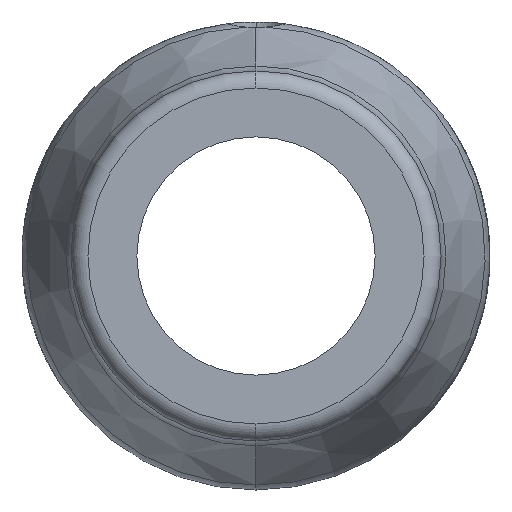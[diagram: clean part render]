
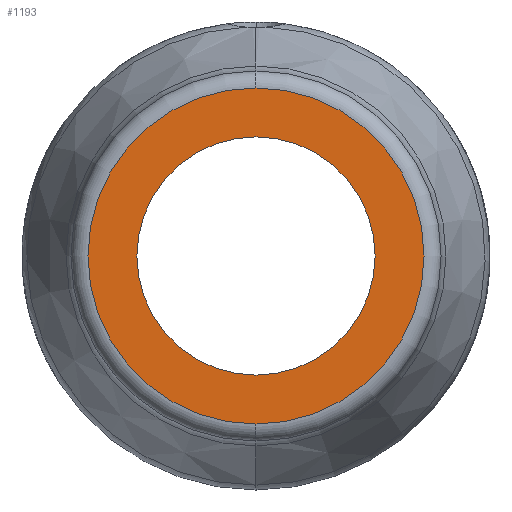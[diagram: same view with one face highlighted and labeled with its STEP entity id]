
A CAD part, left-side view. The second image highlights one B-rep face of the part: STEP entity #1193.
In plain terms, the highlighted planar face has unit normal (-1, 0, 0).
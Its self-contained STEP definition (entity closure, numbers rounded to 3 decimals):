
#91 = AXIS2_PLACEMENT_3D ( 'NONE', #1758, #1325, #1182 ) ;
#105 = FACE_BOUND ( 'NONE', #384, .T. ) ;
#123 = AXIS2_PLACEMENT_3D ( 'NONE', #534, #383, #1149 ) ;
#209 = PLANE ( 'NONE',  #123 ) ;
#214 = ORIENTED_EDGE ( 'NONE', *, *, #1672, .F. ) ;
#289 = DIRECTION ( 'NONE',  ( -1., 0., 0. ) ) ;
#331 = ORIENTED_EDGE ( 'NONE', *, *, #1188, .T. ) ;
#344 = AXIS2_PLACEMENT_3D ( 'NONE', #1278, #1286, #1415 ) ;
#347 = DIRECTION ( 'NONE',  ( 0., 0., -1. ) ) ;
#354 = ORIENTED_EDGE ( 'NONE', *, *, #902, .T. ) ;
#371 = DIRECTION ( 'NONE',  ( -1., 0., 0. ) ) ;
#376 = AXIS2_PLACEMENT_3D ( 'NONE', #1541, #289, #347 ) ;
#383 = DIRECTION ( 'NONE',  ( 1., 0., 0. ) ) ;
#384 = EDGE_LOOP ( 'NONE', ( #214, #1061 ) ) ;
#401 = VERTEX_POINT ( 'NONE', #982 ) ;
#498 = CIRCLE ( 'NONE', #376, 39.5 ) ;
#530 = CARTESIAN_POINT ( 'NONE',  ( 0., 0., 0. ) ) ;
#534 = CARTESIAN_POINT ( 'NONE',  ( 0., 28., 0. ) ) ;
#553 = DIRECTION ( 'NONE',  ( 0., 0., -1. ) ) ;
#609 = VERTEX_POINT ( 'NONE', #1491 ) ;
#625 = CIRCLE ( 'NONE', #91, 28. ) ;
#629 = VERTEX_POINT ( 'NONE', #974 ) ;
#902 = EDGE_CURVE ( 'NONE', #1002, #609, #498, .T. ) ;
#933 = CIRCLE ( 'NONE', #344, 28. ) ;
#973 = CIRCLE ( 'NONE', #1468, 39.5 ) ;
#974 = CARTESIAN_POINT ( 'NONE',  ( 0., 0., -28. ) ) ;
#982 = CARTESIAN_POINT ( 'NONE',  ( 0., 0., 28. ) ) ;
#1002 = VERTEX_POINT ( 'NONE', #1514 ) ;
#1061 = ORIENTED_EDGE ( 'NONE', *, *, #1518, .F. ) ;
#1149 = DIRECTION ( 'NONE',  ( 0., 0., -1. ) ) ;
#1182 = DIRECTION ( 'NONE',  ( 0., 0., 1. ) ) ;
#1188 = EDGE_CURVE ( 'NONE', #609, #1002, #973, .T. ) ;
#1193 = ADVANCED_FACE ( 'NONE', ( #1313, #105 ), #209, .F. ) ;
#1278 = CARTESIAN_POINT ( 'NONE',  ( 0., 0., 0. ) ) ;
#1286 = DIRECTION ( 'NONE',  ( -1., 0., 0. ) ) ;
#1313 = FACE_OUTER_BOUND ( 'NONE', #1913, .T. ) ;
#1325 = DIRECTION ( 'NONE',  ( -1., 0., 0. ) ) ;
#1415 = DIRECTION ( 'NONE',  ( 0., 0., 1. ) ) ;
#1468 = AXIS2_PLACEMENT_3D ( 'NONE', #530, #371, #553 ) ;
#1491 = CARTESIAN_POINT ( 'NONE',  ( 0., 0., 39.5 ) ) ;
#1514 = CARTESIAN_POINT ( 'NONE',  ( 0., 0., -39.5 ) ) ;
#1518 = EDGE_CURVE ( 'NONE', #629, #401, #625, .T. ) ;
#1541 = CARTESIAN_POINT ( 'NONE',  ( 0., 0., 0. ) ) ;
#1672 = EDGE_CURVE ( 'NONE', #401, #629, #933, .T. ) ;
#1758 = CARTESIAN_POINT ( 'NONE',  ( 0., 0., 0. ) ) ;
#1913 = EDGE_LOOP ( 'NONE', ( #354, #331 ) ) ;
